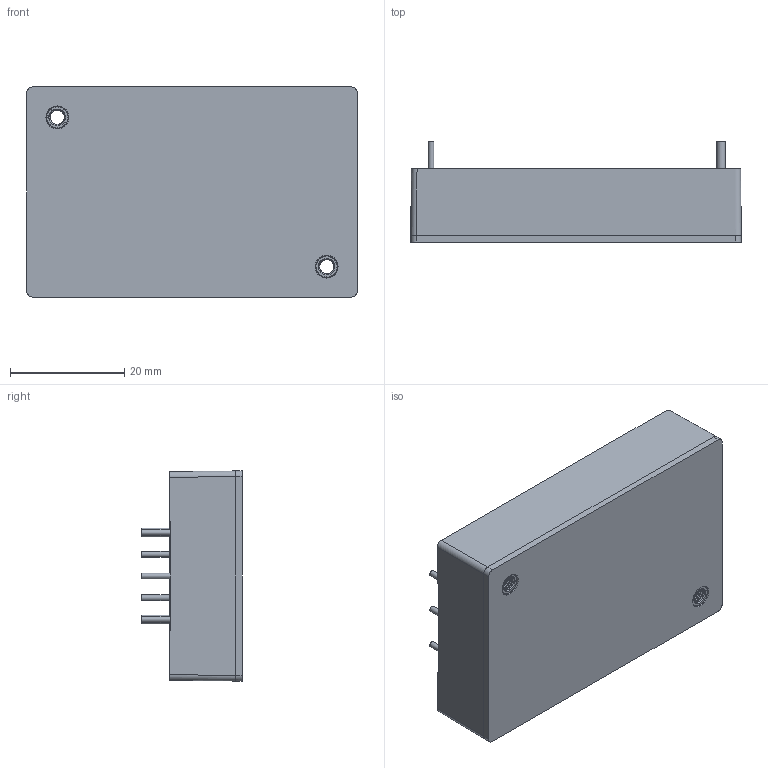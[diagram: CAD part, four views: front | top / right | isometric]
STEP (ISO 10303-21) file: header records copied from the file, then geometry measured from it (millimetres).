
FILE_DESCRIPTION (( 'STEP AP203' ), '1' );
FILE_NAME ('CQB75W14,CQB100W14,CQB150W14,CQB100W8,CQB150W8 2024.11.19.STEP', '2024-11-19T03:32:04', ( '' ), ( '' ), 'SwSTEP 2.0', 'SolidWorks 2020', '' );
FILE_SCHEMA (( 'CONFIG_CONTROL_DESIGN' ));
Length unit declared in the file: millimetre
Products named in the file (1): CQB75W14,CQB100W14,CQB150W14,CQB100W8,CQB150W8 2024.11.19
Bounding box: 57.9 x 17.6 x 36.8 mm (x, y, z)
Volume: 26820.3 mm3; surface area: 10395.1 mm2
Topology: 1 solids, 1 shells, 363 faces, 1018 edges, 672 vertices
Faces by surface type: plane 236, cylinder 67, cone 54, bspline 6
Full cylindrical faces by diameter (mm): 1 x6, 1.2 x8, 1.5 x2, 1.7 x2, 4 x2, 4.3 x2, 4.7 x2
Entity records: 16490 total; most frequent: CARTESIAN_POINT 7503, ORIENTED_EDGE 1956, DIRECTION 1717, EDGE_CURVE 978, VERTEX_POINT 658, AXIS2_PLACEMENT_3D 582, VECTOR 553, LINE 553
